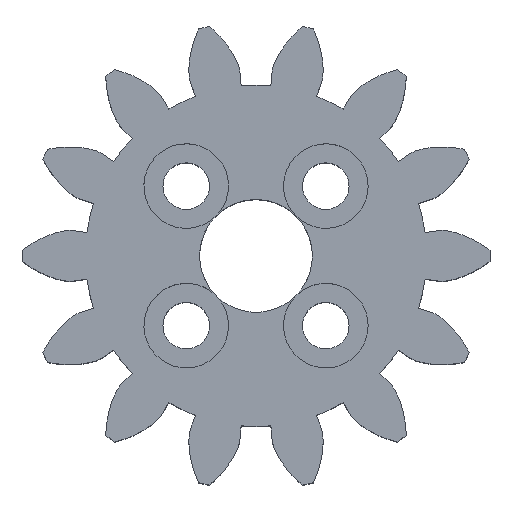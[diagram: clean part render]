
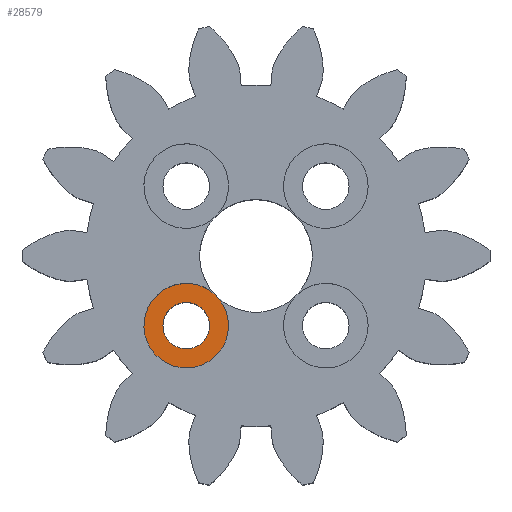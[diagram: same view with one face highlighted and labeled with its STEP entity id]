
A CAD part, top view. The second image highlights one B-rep face of the part: STEP entity #28579.
In plain terms, the highlighted planar face has unit normal (0, 0, 1).
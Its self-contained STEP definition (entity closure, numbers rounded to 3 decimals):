
#10023 = CYLINDRICAL_SURFACE('',#10024,1.65);
#10024 = AXIS2_PLACEMENT_3D('',#10025,#10026,#10027);
#10025 = CARTESIAN_POINT('',(-4.95,-4.95,-1.));
#10026 = DIRECTION('',(-0.,-0.,-1.));
#10027 = DIRECTION('',(1.,0.,0.));
#18185 = CYLINDRICAL_SURFACE('',#18186,3.);
#18186 = AXIS2_PLACEMENT_3D('',#18187,#18188,#18189);
#18187 = CARTESIAN_POINT('',(-4.95,-4.95,11.));
#18188 = DIRECTION('',(-0.,-0.,-1.));
#18189 = DIRECTION('',(1.,0.,0.));
#18216 = CYLINDRICAL_SURFACE('',#18217,3.);
#18217 = AXIS2_PLACEMENT_3D('',#18218,#18219,#18220);
#18218 = CARTESIAN_POINT('',(-4.95,-4.95,11.));
#18219 = DIRECTION('',(-0.,-0.,-1.));
#18220 = DIRECTION('',(1.,0.,0.));
#27925 = VERTEX_POINT('',#27926);
#27926 = CARTESIAN_POINT('',(-3.3,-4.95,11.));
#27949 = EDGE_CURVE('',#27925,#27925,#27950,.T.);
#27950 = SURFACE_CURVE('',#27951,(#27956,#27963),.PCURVE_S1.);
#27951 = CIRCLE('',#27952,1.65);
#27952 = AXIS2_PLACEMENT_3D('',#27953,#27954,#27955);
#27953 = CARTESIAN_POINT('',(-4.95,-4.95,11.));
#27954 = DIRECTION('',(0.,0.,-1.));
#27955 = DIRECTION('',(1.,0.,0.));
#27956 = PCURVE('',#10023,#27957);
#27957 = DEFINITIONAL_REPRESENTATION('',(#27958),#27962);
#27958 = LINE('',#27959,#27960);
#27959 = CARTESIAN_POINT('',(-6.283,-12.));
#27960 = VECTOR('',#27961,1.);
#27961 = DIRECTION('',(1.,-0.));
#27962 = ( GEOMETRIC_REPRESENTATION_CONTEXT(2) 
PARAMETRIC_REPRESENTATION_CONTEXT() REPRESENTATION_CONTEXT('2D SPACE',''
  ) );
#27963 = PCURVE('',#27964,#27969);
#27964 = PLANE('',#27965);
#27965 = AXIS2_PLACEMENT_3D('',#27966,#27967,#27968);
#27966 = CARTESIAN_POINT('',(-4.95,-4.95,11.));
#27967 = DIRECTION('',(0.,0.,1.));
#27968 = DIRECTION('',(1.,0.,-0.));
#27969 = DEFINITIONAL_REPRESENTATION('',(#27970),#27978);
#27970 = ( BOUNDED_CURVE() B_SPLINE_CURVE(2,(#27971,#27972,#27973,#27974
    ,#27975,#27976,#27977),.UNSPECIFIED.,.T.,.F.) 
B_SPLINE_CURVE_WITH_KNOTS((1,2,2,2,2,1),(-2.094,0.,
    2.094,4.189,6.283,8.378),
.UNSPECIFIED.) CURVE() GEOMETRIC_REPRESENTATION_ITEM() 
RATIONAL_B_SPLINE_CURVE((1.,0.5,1.,0.5,1.,0.5,1.)) REPRESENTATION_ITEM(
  '') );
#27971 = CARTESIAN_POINT('',(1.65,0.));
#27972 = CARTESIAN_POINT('',(1.65,-2.858));
#27973 = CARTESIAN_POINT('',(-0.825,-1.429));
#27974 = CARTESIAN_POINT('',(-3.3,0.));
#27975 = CARTESIAN_POINT('',(-0.825,1.429));
#27976 = CARTESIAN_POINT('',(1.65,2.858));
#27977 = CARTESIAN_POINT('',(1.65,0.));
#27978 = ( GEOMETRIC_REPRESENTATION_CONTEXT(2) 
PARAMETRIC_REPRESENTATION_CONTEXT() REPRESENTATION_CONTEXT('2D SPACE',''
  ) );
#28191 = EDGE_CURVE('',#28192,#28194,#28196,.T.);
#28192 = VERTEX_POINT('',#28193);
#28193 = CARTESIAN_POINT('',(-1.95,-4.95,11.));
#28194 = VERTEX_POINT('',#28195);
#28195 = CARTESIAN_POINT('',(-2.828,-2.828,11.));
#28196 = SURFACE_CURVE('',#28197,(#28202,#28209),.PCURVE_S1.);
#28197 = CIRCLE('',#28198,3.);
#28198 = AXIS2_PLACEMENT_3D('',#28199,#28200,#28201);
#28199 = CARTESIAN_POINT('',(-4.95,-4.95,11.));
#28200 = DIRECTION('',(0.,0.,1.));
#28201 = DIRECTION('',(1.,0.,0.));
#28202 = PCURVE('',#18185,#28203);
#28203 = DEFINITIONAL_REPRESENTATION('',(#28204),#28208);
#28204 = LINE('',#28205,#28206);
#28205 = CARTESIAN_POINT('',(-0.,0.));
#28206 = VECTOR('',#28207,1.);
#28207 = DIRECTION('',(-1.,0.));
#28208 = ( GEOMETRIC_REPRESENTATION_CONTEXT(2) 
PARAMETRIC_REPRESENTATION_CONTEXT() REPRESENTATION_CONTEXT('2D SPACE',''
  ) );
#28209 = PCURVE('',#27964,#28210);
#28210 = DEFINITIONAL_REPRESENTATION('',(#28211),#28215);
#28211 = CIRCLE('',#28212,3.);
#28212 = AXIS2_PLACEMENT_2D('',#28213,#28214);
#28213 = CARTESIAN_POINT('',(0.,0.));
#28214 = DIRECTION('',(1.,0.));
#28215 = ( GEOMETRIC_REPRESENTATION_CONTEXT(2) 
PARAMETRIC_REPRESENTATION_CONTEXT() REPRESENTATION_CONTEXT('2D SPACE',''
  ) );
#28262 = EDGE_CURVE('',#28194,#28192,#28263,.T.);
#28263 = SURFACE_CURVE('',#28264,(#28269,#28276),.PCURVE_S1.);
#28264 = CIRCLE('',#28265,3.);
#28265 = AXIS2_PLACEMENT_3D('',#28266,#28267,#28268);
#28266 = CARTESIAN_POINT('',(-4.95,-4.95,11.));
#28267 = DIRECTION('',(0.,0.,1.));
#28268 = DIRECTION('',(1.,0.,0.));
#28269 = PCURVE('',#18216,#28270);
#28270 = DEFINITIONAL_REPRESENTATION('',(#28271),#28275);
#28271 = LINE('',#28272,#28273);
#28272 = CARTESIAN_POINT('',(-0.,0.));
#28273 = VECTOR('',#28274,1.);
#28274 = DIRECTION('',(-1.,0.));
#28275 = ( GEOMETRIC_REPRESENTATION_CONTEXT(2) 
PARAMETRIC_REPRESENTATION_CONTEXT() REPRESENTATION_CONTEXT('2D SPACE',''
  ) );
#28276 = PCURVE('',#27964,#28277);
#28277 = DEFINITIONAL_REPRESENTATION('',(#28278),#28282);
#28278 = CIRCLE('',#28279,3.);
#28279 = AXIS2_PLACEMENT_2D('',#28280,#28281);
#28280 = CARTESIAN_POINT('',(0.,0.));
#28281 = DIRECTION('',(1.,0.));
#28282 = ( GEOMETRIC_REPRESENTATION_CONTEXT(2) 
PARAMETRIC_REPRESENTATION_CONTEXT() REPRESENTATION_CONTEXT('2D SPACE',''
  ) );
#28579 = ADVANCED_FACE('',(#28580,#28584),#27964,.T.);
#28580 = FACE_BOUND('',#28581,.T.);
#28581 = EDGE_LOOP('',(#28582,#28583));
#28582 = ORIENTED_EDGE('',*,*,#28191,.T.);
#28583 = ORIENTED_EDGE('',*,*,#28262,.T.);
#28584 = FACE_BOUND('',#28585,.T.);
#28585 = EDGE_LOOP('',(#28586));
#28586 = ORIENTED_EDGE('',*,*,#27949,.T.);
